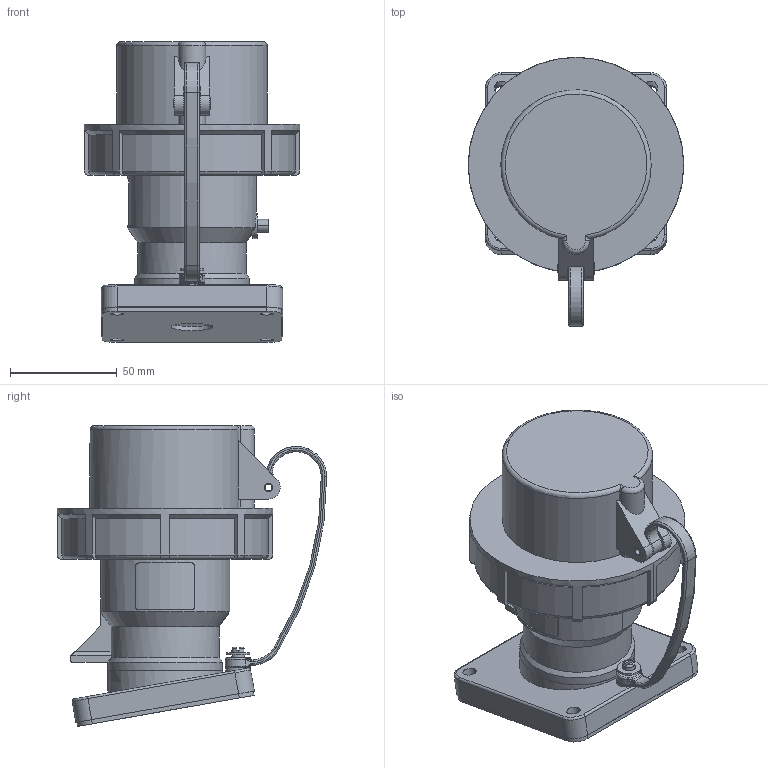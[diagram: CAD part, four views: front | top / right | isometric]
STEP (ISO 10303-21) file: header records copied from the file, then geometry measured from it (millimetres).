
FILE_DESCRIPTION((''),'2;1');
FILE_NAME('1116592_ASM_SW0001','2018-04-24T',('gisse'),('MENNEKES'),'PRO/ENGINEER BY PARAMETRIC TECHNOLOGY CORPORATION, 2015440','PRO/ENGINEER BY PARAMETRIC TECHNOLOGY CORPORATION, 2015440','');
FILE_SCHEMA(('AUTOMOTIVE_DESIGN { 1 0 10303 214 1 1 1 1 }'));
Length unit declared in the file: millimetre
Products named in the file (1): 1116592_ASM_SW0001
Bounding box: 101 x 126.25 x 141.09 mm (x, y, z)
Volume: 576074.3 mm3; surface area: 62610.2 mm2
Topology: 1 solids, 1 shells, 281 faces, 722 edges, 461 vertices
Faces by surface type: cylinder 94, plane 85, torus 62, bspline 20, cone 16, sphere 4
Entity records: 15437 total; most frequent: CARTESIAN_POINT 2603, DIRECTION 1527, ORIENTED_EDGE 1444, PRESENTATION_STYLE_ASSIGNMENT 1000, STYLED_ITEM 723, CURVE_STYLE 722, EDGE_CURVE 722, AXIS2_PLACEMENT_3D 630
